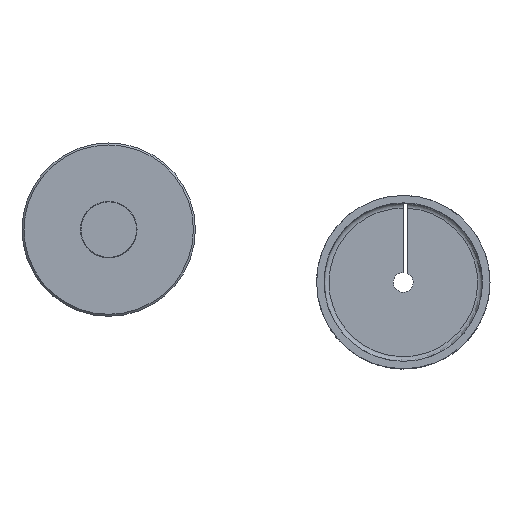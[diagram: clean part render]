
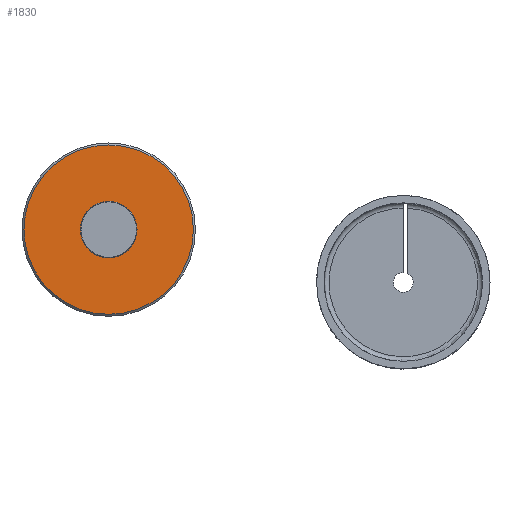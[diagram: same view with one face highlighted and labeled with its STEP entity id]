
A CAD part, top view. The second image highlights one B-rep face of the part: STEP entity #1830.
In plain terms, the highlighted planar face has unit normal (0, 0, 1).
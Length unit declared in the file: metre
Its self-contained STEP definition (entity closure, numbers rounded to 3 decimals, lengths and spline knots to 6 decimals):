
#359=PLANE('',#1957);
#452=ORIENTED_EDGE('',*,*,#985,.F.);
#453=ORIENTED_EDGE('',*,*,#986,.T.);
#985=EDGE_CURVE('',#1253,#1253,#1435,.T.);
#986=EDGE_CURVE('',#1254,#1254,#1436,.T.);
#1253=VERTEX_POINT('',#2725);
#1254=VERTEX_POINT('',#2727);
#1435=CIRCLE('',#1958,0.02);
#1436=CIRCLE('',#1959,0.0855);
#1536=EDGE_LOOP('',(#452));
#1537=EDGE_LOOP('',(#453));
#1682=FACE_BOUND('',#1536,.T.);
#1683=FACE_BOUND('',#1537,.T.);
#1830=ADVANCED_FACE('',(#1682,#1683),#359,.T.);
#1957=AXIS2_PLACEMENT_3D('',#2723,#2164,#2165);
#1958=AXIS2_PLACEMENT_3D('',#2724,#2166,#2167);
#1959=AXIS2_PLACEMENT_3D('',#2726,#2168,#2169);
#2164=DIRECTION('',(0.,0.,1.));
#2165=DIRECTION('',(1.,0.,0.));
#2166=DIRECTION('',(0.,0.,1.));
#2167=DIRECTION('',(1.,0.,0.));
#2168=DIRECTION('',(0.,0.,1.));
#2169=DIRECTION('',(1.,0.,0.));
#2723=CARTESIAN_POINT('',(-0.297347,0.053239,0.008));
#2724=CARTESIAN_POINT('',(-0.297347,0.053239,0.008));
#2725=CARTESIAN_POINT('',(-0.277347,0.053239,0.008));
#2726=CARTESIAN_POINT('',(-0.297347,0.053239,0.008));
#2727=CARTESIAN_POINT('',(-0.211847,0.053239,0.008));
